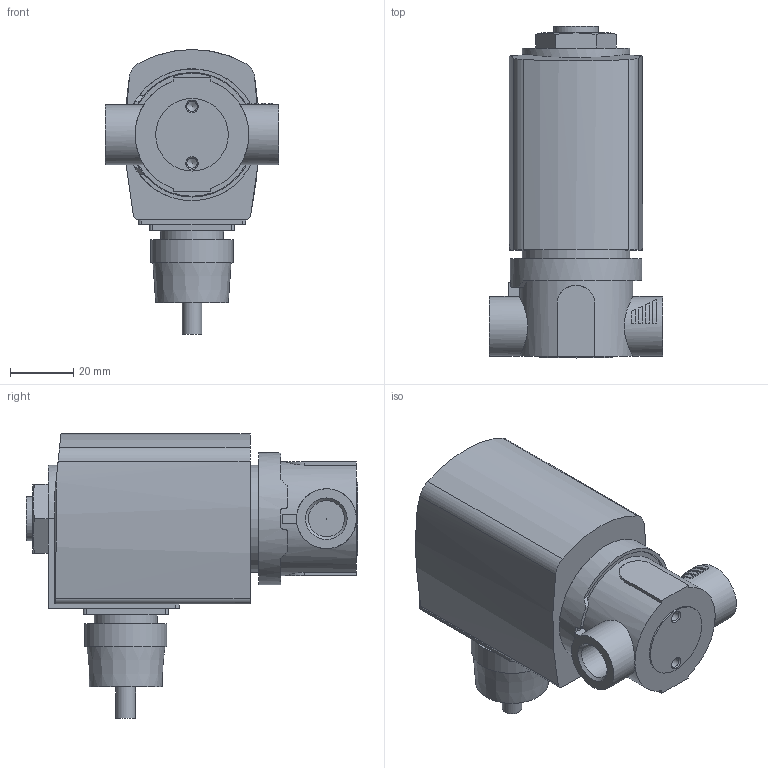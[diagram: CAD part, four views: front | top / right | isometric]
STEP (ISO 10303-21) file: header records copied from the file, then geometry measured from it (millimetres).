
FILE_DESCRIPTION(/* description */ ('STEP AP214'),/* implementation_level */ '2;1');
FILE_NAME(/* name */ '6027-A-1_5-PTFE___FKM-VA-G_1_4-42-230___UC',/* time_stamp */ '2024-03-29T10:57:08+01:00',/* author */ ('License CC BY-ND 4.0'),/* organization */ ('CADENAS'),/* preprocessor_version */ 'ST-DEVELOPER v19.3',/* originating_system */ 'PARTsolutions',/* authorisation */ ' ');
FILE_SCHEMA (('AUTOMOTIVE_DESIGN {1 0 10303 214 3 1 1}'));
Length unit declared in the file: millimetre
Products named in the file (3): 6027-A-1.5-PTFE / FKM-VA-G 1/4-42-230 / UC; AC10ex-42ATEXKabelPlan-Coil; V027-Gehaeuse G 1/4 1 1 VA G55 4 1
Assembly tree (2 placements, depth 2):
  6027-A-1.5-PTFE / FKM-VA-G 1/4-42-230 / UC
    AC10ex-42ATEXKabelPlan-Coil
    V027-Gehaeuse G 1/4 1 1 VA G55 4 1
Bounding box: 55 x 105.2 x 90.3 mm (x, y, z)
Volume: 189526.5 mm3; surface area: 28864.9 mm2
Topology: 2 solids, 2 shells, 127 faces, 304 edges, 198 vertices
Faces by surface type: plane 71, cylinder 43, cone 13
Full cylindrical faces by diameter (mm): 0.2 x1, 3.242 x2, 6.2 x1, 11.445 x2, 14 x1, 19 x2, 20 x1, 23 x1, 26 x1, 34 x1, 36 x1, 39 x1, 39.5 x1, 41.8 x1
Entity records: 4022 total; most frequent: CARTESIAN_POINT 722, DIRECTION 621, ORIENTED_EDGE 542, EDGE_CURVE 271, AXIS2_PLACEMENT_3D 249, VERTEX_POINT 191, FACE_BOUND 172, EDGE_LOOP 170
